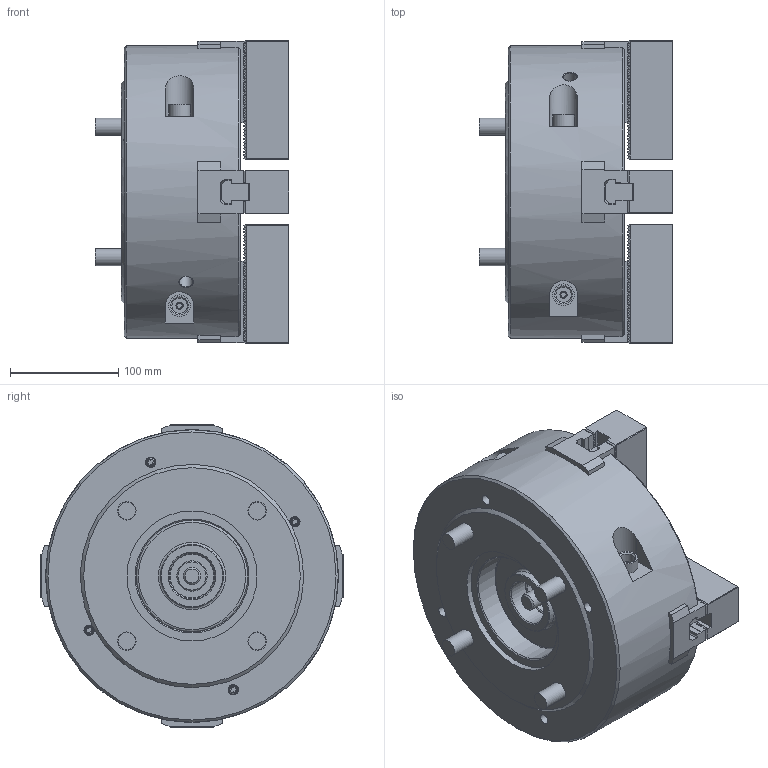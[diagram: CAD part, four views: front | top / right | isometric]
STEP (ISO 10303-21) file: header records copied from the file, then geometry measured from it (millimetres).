
FILE_DESCRIPTION (( 'STEP AP214' ), '1' );
FILE_NAME ('HW-10_61P231392-5_UC.STEP', '2020-03-19T05:32:06', ( '' ), ( '' ), 'SwSTEP 2.0', 'SolidWorks 2017', '' );
FILE_SCHEMA (( 'AUTOMOTIVE_DESIGN' ));
Length unit declared in the file: millimetre
Products named in the file (22): 俛傾僫僣僉 M12x3512x35; HW-10_61P231392-5_UC; 61P322999_ソフトジョー_W_‡_[; 61P400852_俿僫僢僩_b_g; 61P322999_ソフトジョー_W_‡_[_ﾃﾞﾌｫﾙﾄ_ATI≪UA; 俛傾僫僣僉 M12x3512x35_B迸路 M12X3512X35; Part1^61P231392_HW-10 クミタテ_^_e; Part1^61P231392_HW-10 僋儈僞僥_^_e_棉太倌I佱UA; 61P400852_俿僫僢僩_b_g_棉太倌I佱UA
Assembly tree (17 placements, depth 2):
  俛傾僫僣僉 M12x3512x35
  HW-10_61P231392-5_UC
    61P400852_俿僫僢僩_b_g_棉太倌I佱UA  x4
    61P322999_ソフトジョー_W_‡_[_ﾃﾞﾌｫﾙﾄ_ATI≪UA  x4
    俛傾僫僣僉 M12x3512x35_B迸路 M12X3512X35  x8
    Part1^61P231392_HW-10 僋儈僞僥_^_e_棉太倌I佱UA
  61P322999_ソフトジョー_W_‡_[
  俛傾僫僣僉 M12x3512x35
  61P322999_ソフトジョー_W_‡_[
Bounding box: 179 x 279.6 x 279.97 mm (x, y, z)
Volume: 6559416.5 mm3; surface area: 502601.7 mm2
Topology: 17 solids, 29 shells, 3147 faces, 8773 edges, 5815 vertices
Faces by surface type: plane 2792, cylinder 177, bspline 85, cone 59, torus 34
Full cylindrical faces by diameter (mm): 5 x4, 5.5 x4, 8 x4, 8.5 x4, 9.5 x8, 10.2 x10, 12 x18, 13 x12, 14 x8, 16 x5, 17 x4, 18 x8, 19 x8, 20 x4, 24 x4, 25 x4, 28 x1, 40.376 x1, 42 x1, 54.733 x1, 58 x1, 103 x1, 120 x1, 270 x1
Entity records: 74068 total; most frequent: CARTESIAN_POINT 16852, ORIENTED_EDGE 12178, DIRECTION 10674, EDGE_CURVE 6089, LINE 5436, VECTOR 5436, VERTEX_POINT 4105, AXIS2_PLACEMENT_3D 2619
